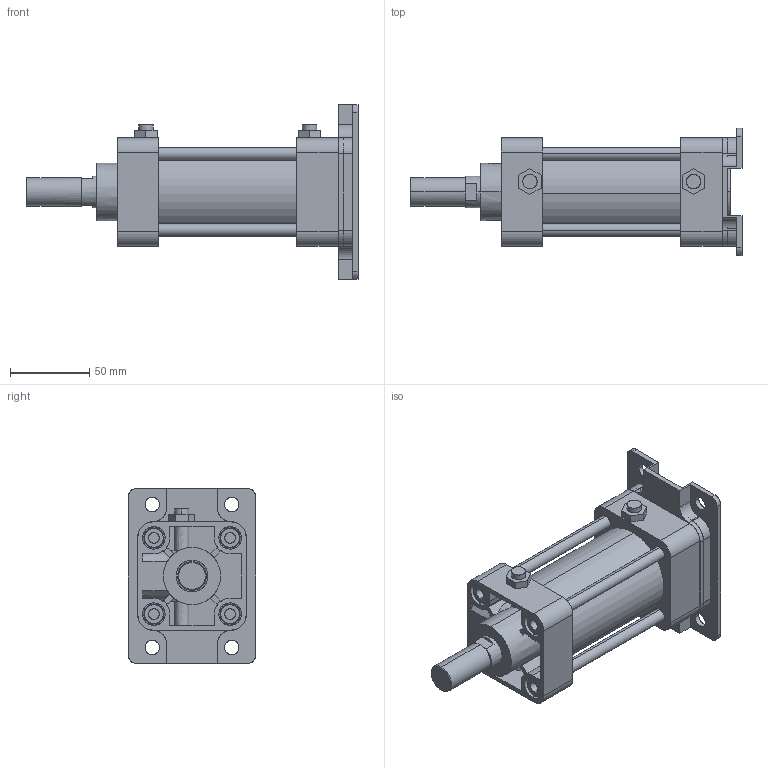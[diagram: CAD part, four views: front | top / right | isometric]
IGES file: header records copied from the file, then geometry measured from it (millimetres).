
Start section: SolidWorks IGES file using analytic representation for surfaces
Global section: file name: C:\Users\Toshiba\Desktop\KG2-50-50-B.IGS; native system: SolidWorks 2014; preprocessor: SolidWorks 2014; author: Toshiba; date: 160401.161140; units: millimetre
Bounding box: 209 x 80 x 110 mm (x, y, z)
Surface area: 121026.7 mm2 (no closed solid volume)
Topology: 0 solids, 0 shells, 393 faces, 6212 edges, 6208 vertices
Faces by surface type: bspline 203, revolution 190
